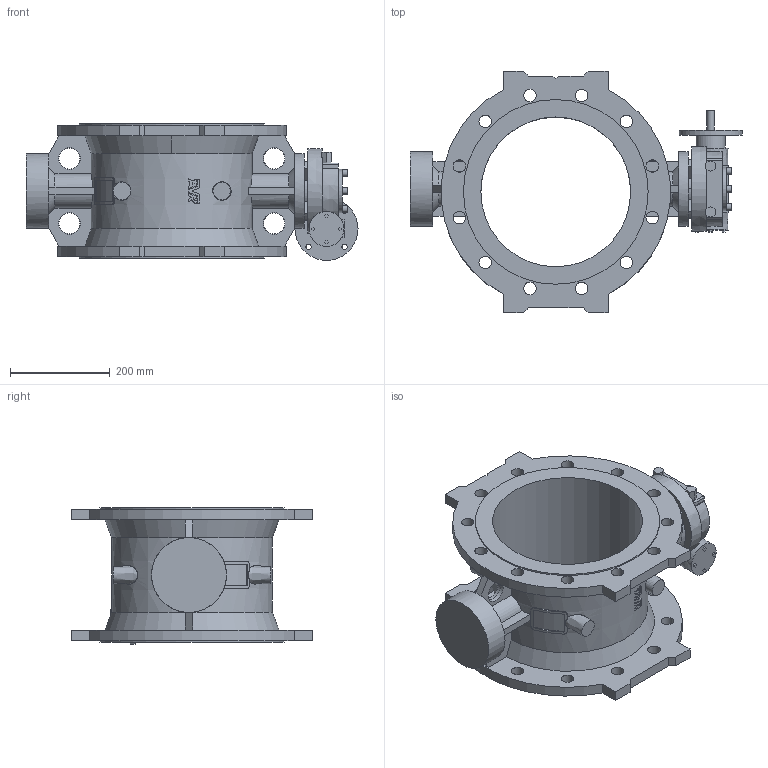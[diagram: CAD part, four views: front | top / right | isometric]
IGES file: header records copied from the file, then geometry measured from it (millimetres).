
Start section: SolidWorks IGES file using analytic representation for surfaces
Global section: file name: \\avksan2\techshare\PBM outline export from Enovia\O_756_102_DN300_0XX_AA0_igs.igs; native system: SolidWorks 2012; preprocessor: SolidWorks 2012; author: pbm; date: 160309.114754; units: millimetre
Bounding box: 665 x 484 x 274 mm (x, y, z)
Surface area: 1240695.3 mm2 (no closed solid volume)
Topology: 0 solids, 0 shells, 433 faces, 3312 edges, 3215 vertices
Faces by surface type: bspline 321, revolution 112
